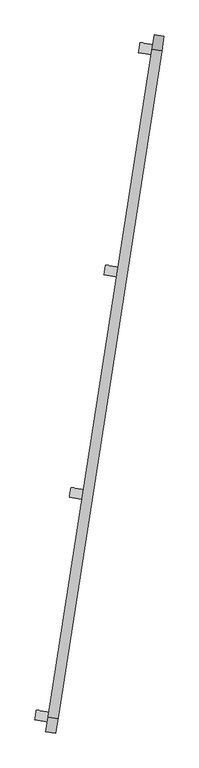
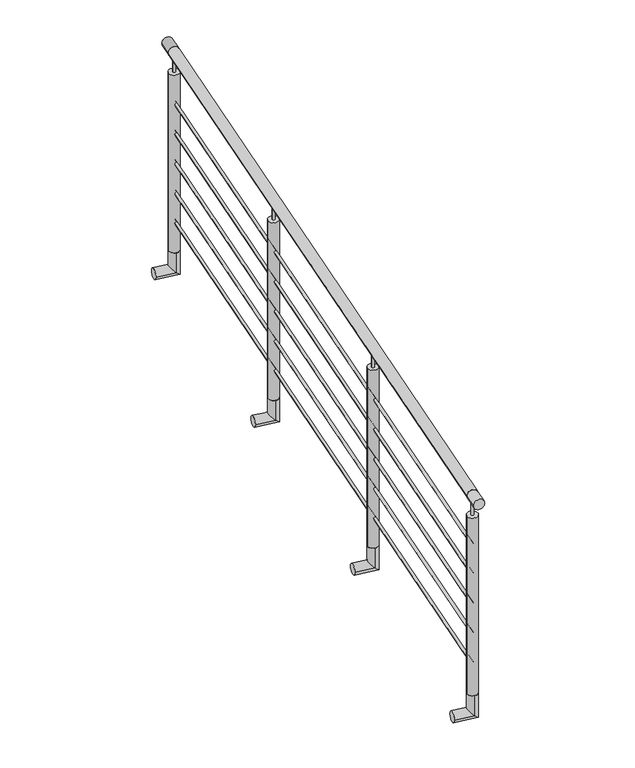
"""IFC4 building model written with IfcOpenShell, lengths in millimetres: railing geometry, Barandal acero inox - sobre ventana."""

from ifc_helpers import new_model, si_unit, point, frame, frame_2d, origin, origin_2d, place, context, project, spatial, circle_curve, ellipse_curve, trimmed, segment, composite_curve, outline, extrude, source, transform, mapped, element, save
from ifc_brep_helpers import plane_surface, cylinder_surface, advanced_brep


def railing_5b8c65d1(model_context):
    return source(origin(), model_context, "Body", "SolidModel", [
        extrude(outline(composite_curve([segment(trimmed(circle_curve(origin_2d(), 25.4), [point((25.4, 0.0))], [point((-25.4, 0.0))], False, "CARTESIAN"), True, "CONTINUOUS"), segment(trimmed(circle_curve(origin_2d(), 25.4), [point((-25.4, 0.0))], [point((25.4, 0.0))], False, "CARTESIAN"), True, "CONTINUOUS")], self_intersect=False)), frame((-23346.3091717, -74517.0784613, 10600.0), z_axis=(0.15400987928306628, 0.9880693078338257, 0.0), x_axis=(0.9880693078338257, -0.15400987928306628, 0.0)), (0.0, 0.0, 1.0), 3429.9999727),
        extrude(outline(composite_curve([segment(trimmed(circle_curve(origin_2d(), 6.35), [point((6.35, 0.0))], [point((-6.35, 0.0))], False, "CARTESIAN"), True, "CONTINUOUS"), segment(trimmed(circle_curve(origin_2d(), 6.35), [point((-6.35, 0.0))], [point((6.35, 0.0))], False, "CARTESIAN"), True, "CONTINUOUS")], self_intersect=False)), frame((-23346.3091717, -74517.0784613, 10350.0), z_axis=(0.15400987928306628, 0.9880693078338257, 0.0), x_axis=(0.9880693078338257, -0.15400987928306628, 0.0)), (0.0, 0.0, 1.0), 3429.9999727),
        extrude(outline(composite_curve([segment(trimmed(circle_curve(origin_2d(), 6.35), [point((6.35, 0.0))], [point((-6.35, 0.0))], False, "CARTESIAN"), True, "CONTINUOUS"), segment(trimmed(circle_curve(origin_2d(), 6.35), [point((-6.35, 0.0))], [point((6.35, 0.0))], False, "CARTESIAN"), True, "CONTINUOUS")], self_intersect=False)), frame((-23346.3091717, -74517.0784613, 10200.0), z_axis=(0.15400987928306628, 0.9880693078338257, 0.0), x_axis=(0.9880693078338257, -0.15400987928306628, 0.0)), (0.0, 0.0, 1.0), 3429.9999727),
        extrude(outline(composite_curve([segment(trimmed(circle_curve(origin_2d(), 6.35), [point((6.35, 0.0))], [point((-6.35, 0.0))], False, "CARTESIAN"), True, "CONTINUOUS"), segment(trimmed(circle_curve(origin_2d(), 6.35), [point((-6.35, 0.0))], [point((6.35, 0.0))], False, "CARTESIAN"), True, "CONTINUOUS")], self_intersect=False)), frame((-23346.3091717, -74517.0784613, 10050.0), z_axis=(0.15400987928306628, 0.9880693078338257, 0.0), x_axis=(0.9880693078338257, -0.15400987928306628, 0.0)), (0.0, 0.0, 1.0), 3429.9999727),
        extrude(outline(composite_curve([segment(trimmed(circle_curve(origin_2d(), 6.35), [point((6.35, 0.0))], [point((-6.35, 0.0))], False, "CARTESIAN"), True, "CONTINUOUS"), segment(trimmed(circle_curve(origin_2d(), 6.35), [point((-6.35, 0.0))], [point((6.35, 0.0))], False, "CARTESIAN"), True, "CONTINUOUS")], self_intersect=False)), frame((-23346.3091717, -74517.0784613, 9900.0), z_axis=(0.15400987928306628, 0.9880693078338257, 0.0), x_axis=(0.9880693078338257, -0.15400987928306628, 0.0)), (0.0, 0.0, 1.0), 3429.9999727),
        extrude(outline(composite_curve([segment(trimmed(circle_curve(origin_2d(), 6.35), [point((6.35, 0.0))], [point((-6.35, 0.0))], False, "CARTESIAN"), True, "CONTINUOUS"), segment(trimmed(circle_curve(origin_2d(), 6.35), [point((-6.35, 0.0))], [point((6.35, 0.0))], False, "CARTESIAN"), True, "CONTINUOUS")], self_intersect=False)), frame((-23346.3091717, -74517.0784613, 9750.0), z_axis=(0.15400987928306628, 0.9880693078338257, 0.0), x_axis=(0.9880693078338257, -0.15400987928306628, 0.0)), (0.0, 0.0, 1.0), 3429.9999727),
        advanced_brep(
        [(-22998.0517681, -72282.7902891, 9600.0), (-22990.2280663, -72232.5963683, 9600.0), (-22990.2280663, -72232.5963683, 9500.0), (-22998.0517681, -72282.7902891, 9500.0), (-23086.9780058, -72268.9294, 9500.0), (-23079.154304, -72218.7354791, 9500.0)],
        [
            (0, 1, circle_curve(frame((-22994.1399172, -72257.6933287, 9600.0), z_axis=(0.0, 0.0, 1.0), x_axis=(0.15400987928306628, 0.9880693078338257, 0.0)), 25.4)),
            (1, 0, circle_curve(frame((-22994.1399172, -72257.6933287, 9600.0), z_axis=(0.0, 0.0, 1.0), x_axis=(0.15400987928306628, 0.9880693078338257, 0.0)), 25.4)),
            (1, 2),
            (2, 3, ellipse_curve(frame((-22994.1399172, -72257.6933287, 9500.0), z_axis=(0.6986705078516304, -0.1089014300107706, 0.7071067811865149), x_axis=(-0.6986705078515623, 0.10890143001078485, 0.7071067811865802)), 35.9210245, 25.4)),
            (3, 0),
            (3, 2, ellipse_curve(frame((-22994.1399172, -72257.6933287, 9500.0), z_axis=(0.6986705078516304, -0.1089014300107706, 0.7071067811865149), x_axis=(-0.6986705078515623, 0.10890143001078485, 0.7071067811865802)), 35.9210245, 25.4)),
            (4, 5, circle_curve(frame((-23083.0661549, -72243.8324395, 9500.0), z_axis=(-0.9880693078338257, 0.15400987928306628, 0.0), x_axis=(0.15400987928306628, 0.9880693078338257, 0.0)), 25.4)),
            (5, 4, circle_curve(frame((-23083.0661549, -72243.8324395, 9500.0), z_axis=(-0.9880693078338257, 0.15400987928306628, 0.0), x_axis=(0.15400987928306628, 0.9880693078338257, 0.0)), 25.4)),
            (2, 5),
            (4, 3),
        ],
        [
            plane_surface(frame((-22994.1399172, -72257.6933287, 9600.0), z_axis=(0.0, 0.0, 1.0), x_axis=(0.15400987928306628, 0.9880693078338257, 0.0))),
            cylinder_surface(frame((-22994.1399172, -72257.6933287, 9600.0), z_axis=(0.0, 0.0, 1.0), x_axis=(0.15400987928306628, 0.9880693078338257, 0.0)), 25.4),
            plane_surface(frame((-23083.0661549, -72243.8324395, 9500.0), z_axis=(-0.9880693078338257, 0.15400987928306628, 0.0), x_axis=(0.15400987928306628, 0.9880693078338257, 0.0))),
            cylinder_surface(frame((-22994.1399172, -72257.6933287, 9500.0), z_axis=(0.9880693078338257, -0.15400987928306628, 0.0), x_axis=(0.15400987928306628, 0.9880693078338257, 0.0)), 25.4),
        ],
        [
            (0, [[1, 2]]),
            (1, [[3, 4, 5, -2]]),
            (1, [[-5, 6, -3, -1]]),
            (2, [[7, 8]]),
            (3, [[9, -7, 10, -4]]),
            (3, [[-10, -8, -9, -6]]),
        ],
    ),
        extrude(outline(composite_curve([segment(trimmed(circle_curve(frame_2d((-22994.1399172, -72257.6933287)), 6.35), [point((-23000.4141573, -72256.7153659))], [point((-22987.8656771, -72258.6712914))], False, "CARTESIAN"), True, "CONTINUOUS"), segment(trimmed(circle_curve(frame_2d((-22994.1399172, -72257.6933287)), 6.35), [point((-22987.8656771, -72258.6712914))], [point((-23000.4141573, -72256.7153659))], False, "CARTESIAN"), True, "CONTINUOUS")], self_intersect=False)), frame((0.0, 0.0, 10499.6), z_axis=(0.0, 0.0, 1.0), x_axis=(1.0, 0.0, 0.0)), (0.0, 0.0, 1.0), 75.0),
        extrude(outline(composite_curve([segment(trimmed(circle_curve(frame_2d((-22994.1399172, -72257.6933287)), 25.4), [point((-23019.2368776, -72253.7814777))], [point((-22969.0429568, -72261.6051796))], False, "CARTESIAN"), True, "CONTINUOUS"), segment(trimmed(circle_curve(frame_2d((-22994.1399172, -72257.6933287)), 25.4), [point((-22969.0429568, -72261.6051796))], [point((-23019.2368776, -72253.7814777))], False, "CARTESIAN"), True, "CONTINUOUS")], self_intersect=False)), frame((0.0, 0.0, 9600.0), z_axis=(0.0, 0.0, 1.0), x_axis=(1.0, 0.0, 0.0)), (0.0, 0.0, 1.0), 899.6),
        advanced_brep(
        [(-23174.1363954, -73412.4828554, 9600.0), (-23166.3126935, -73362.2889346, 9600.0), (-23166.3126935, -73362.2889346, 9500.0), (-23174.1363954, -73412.4828554, 9500.0), (-23263.0626331, -73398.6219663, 9500.0), (-23255.2389312, -73348.4280454, 9500.0)],
        [
            (0, 1, circle_curve(frame((-23170.2245444, -73387.385895, 9600.0), z_axis=(0.0, 0.0, 1.0), x_axis=(0.15400987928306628, 0.9880693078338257, 0.0)), 25.4)),
            (1, 0, circle_curve(frame((-23170.2245444, -73387.385895, 9600.0), z_axis=(0.0, 0.0, 1.0), x_axis=(0.15400987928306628, 0.9880693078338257, 0.0)), 25.4)),
            (1, 2),
            (2, 3, ellipse_curve(frame((-23170.2245444, -73387.385895, 9500.0), z_axis=(0.6986705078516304, -0.1089014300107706, 0.7071067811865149), x_axis=(-0.6986705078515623, 0.10890143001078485, 0.7071067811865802)), 35.9210245, 25.4)),
            (3, 0),
            (3, 2, ellipse_curve(frame((-23170.2245444, -73387.385895, 9500.0), z_axis=(0.6986705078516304, -0.1089014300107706, 0.7071067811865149), x_axis=(-0.6986705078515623, 0.10890143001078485, 0.7071067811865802)), 35.9210245, 25.4)),
            (4, 5, circle_curve(frame((-23259.1507821, -73373.5250058, 9500.0), z_axis=(-0.9880693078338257, 0.15400987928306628, 0.0), x_axis=(0.15400987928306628, 0.9880693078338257, 0.0)), 25.4)),
            (5, 4, circle_curve(frame((-23259.1507821, -73373.5250058, 9500.0), z_axis=(-0.9880693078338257, 0.15400987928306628, 0.0), x_axis=(0.15400987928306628, 0.9880693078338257, 0.0)), 25.4)),
            (2, 5),
            (4, 3),
        ],
        [
            plane_surface(frame((-23170.2245444, -73387.385895, 9600.0), z_axis=(0.0, 0.0, 1.0), x_axis=(0.15400987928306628, 0.9880693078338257, 0.0))),
            cylinder_surface(frame((-23170.2245444, -73387.385895, 9600.0), z_axis=(0.0, 0.0, 1.0), x_axis=(0.15400987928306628, 0.9880693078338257, 0.0)), 25.4),
            plane_surface(frame((-23259.1507821, -73373.5250058, 9500.0), z_axis=(-0.9880693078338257, 0.15400987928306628, 0.0), x_axis=(0.15400987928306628, 0.9880693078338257, 0.0))),
            cylinder_surface(frame((-23170.2245444, -73387.385895, 9500.0), z_axis=(0.9880693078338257, -0.15400987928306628, 0.0), x_axis=(0.15400987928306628, 0.9880693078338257, 0.0)), 25.4),
        ],
        [
            (0, [[1, 2]]),
            (1, [[3, 4, 5, -2]]),
            (1, [[-5, 6, -3, -1]]),
            (2, [[7, 8]]),
            (3, [[9, -7, 10, -4]]),
            (3, [[-10, -8, -9, -6]]),
        ],
    ),
        extrude(outline(composite_curve([segment(trimmed(circle_curve(frame_2d((-23170.2245444, -73387.385895)), 6.35), [point((-23176.4987845, -73386.4079322))], [point((-23163.9503043, -73388.3638577))], False, "CARTESIAN"), True, "CONTINUOUS"), segment(trimmed(circle_curve(frame_2d((-23170.2245444, -73387.385895)), 6.35), [point((-23163.9503043, -73388.3638577))], [point((-23176.4987845, -73386.4079322))], False, "CARTESIAN"), True, "CONTINUOUS")], self_intersect=False)), frame((0.0, 0.0, 10499.6), z_axis=(0.0, 0.0, 1.0), x_axis=(1.0, 0.0, 0.0)), (0.0, 0.0, 1.0), 75.0),
        extrude(outline(composite_curve([segment(trimmed(circle_curve(frame_2d((-23170.2245444, -73387.385895)), 25.4), [point((-23195.3215049, -73383.474044))], [point((-23145.127584, -73391.2977459))], False, "CARTESIAN"), True, "CONTINUOUS"), segment(trimmed(circle_curve(frame_2d((-23170.2245444, -73387.385895)), 25.4), [point((-23145.127584, -73391.2977459))], [point((-23195.3215049, -73383.474044))], False, "CARTESIAN"), True, "CONTINUOUS")], self_intersect=False)), frame((0.0, 0.0, 9600.0), z_axis=(0.0, 0.0, 1.0), x_axis=(1.0, 0.0, 0.0)), (0.0, 0.0, 1.0), 899.6),
        advanced_brep(
        [(-22821.9671409, -71153.0977228, 9600.0), (-22814.143439, -71102.903802, 9600.0), (-22814.143439, -71102.903802, 9500.0), (-22821.9671409, -71153.0977228, 9500.0), (-22910.8933786, -71139.2368337, 9500.0), (-22903.0696767, -71089.0429128, 9500.0)],
        [
            (0, 1, circle_curve(frame((-22818.05529, -71128.0007624, 9600.0), z_axis=(0.0, 0.0, 1.0), x_axis=(0.15400987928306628, 0.9880693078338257, 0.0)), 25.4)),
            (1, 0, circle_curve(frame((-22818.05529, -71128.0007624, 9600.0), z_axis=(0.0, 0.0, 1.0), x_axis=(0.15400987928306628, 0.9880693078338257, 0.0)), 25.4)),
            (1, 2),
            (2, 3, ellipse_curve(frame((-22818.05529, -71128.0007624, 9500.0), z_axis=(0.6986705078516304, -0.1089014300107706, 0.7071067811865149), x_axis=(-0.6986705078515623, 0.10890143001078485, 0.7071067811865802)), 35.9210245, 25.4)),
            (3, 0),
            (3, 2, ellipse_curve(frame((-22818.05529, -71128.0007624, 9500.0), z_axis=(0.6986705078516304, -0.1089014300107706, 0.7071067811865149), x_axis=(-0.6986705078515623, 0.10890143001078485, 0.7071067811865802)), 35.9210245, 25.4)),
            (4, 5, circle_curve(frame((-22906.9815277, -71114.1398733, 9500.0), z_axis=(-0.9880693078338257, 0.15400987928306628, 0.0), x_axis=(0.15400987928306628, 0.9880693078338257, 0.0)), 25.4)),
            (5, 4, circle_curve(frame((-22906.9815277, -71114.1398733, 9500.0), z_axis=(-0.9880693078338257, 0.15400987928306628, 0.0), x_axis=(0.15400987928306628, 0.9880693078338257, 0.0)), 25.4)),
            (2, 5),
            (4, 3),
        ],
        [
            plane_surface(frame((-22818.05529, -71128.0007624, 9600.0), z_axis=(0.0, 0.0, 1.0), x_axis=(0.15400987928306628, 0.9880693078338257, 0.0))),
            cylinder_surface(frame((-22818.05529, -71128.0007624, 9600.0), z_axis=(0.0, 0.0, 1.0), x_axis=(0.15400987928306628, 0.9880693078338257, 0.0)), 25.4),
            plane_surface(frame((-22906.9815277, -71114.1398733, 9500.0), z_axis=(-0.9880693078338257, 0.15400987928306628, 0.0), x_axis=(0.15400987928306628, 0.9880693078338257, 0.0))),
            cylinder_surface(frame((-22818.05529, -71128.0007624, 9500.0), z_axis=(0.9880693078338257, -0.15400987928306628, 0.0), x_axis=(0.15400987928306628, 0.9880693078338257, 0.0)), 25.4),
        ],
        [
            (0, [[1, 2]]),
            (1, [[3, 4, 5, -2]]),
            (1, [[-5, 6, -3, -1]]),
            (2, [[7, 8]]),
            (3, [[9, -7, 10, -4]]),
            (3, [[-10, -8, -9, -6]]),
        ],
    ),
        extrude(outline(composite_curve([segment(trimmed(circle_curve(frame_2d((0.0, 25.4000001)), 25.4), [point((0.0, 50.8000001))], [point((0.0, 0.0))], False, "CARTESIAN"), True, "CONTINUOUS"), segment(trimmed(circle_curve(frame_2d((0.0, 25.4000001)), 25.4), [point((0.0, 0.0))], [point((0.0, 50.8000001))], False, "CARTESIAN"), True, "CONTINUOUS")], self_intersect=False)), frame((-22792.9583295, -71131.9126133, 10600.0), z_axis=(0.15400987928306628, 0.9880693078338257, 0.0), x_axis=(0.0, 0.0, -1.0)), (0.0, 0.0, 1.0), 75.0),
        extrude(outline(composite_curve([segment(trimmed(circle_curve(frame_2d((-22818.05529, -71128.0007624)), 6.35), [point((-22824.3295301, -71127.0227997))], [point((-22811.7810499, -71128.9787251))], False, "CARTESIAN"), True, "CONTINUOUS"), segment(trimmed(circle_curve(frame_2d((-22818.05529, -71128.0007624)), 6.35), [point((-22811.7810499, -71128.9787251))], [point((-22824.3295301, -71127.0227997))], False, "CARTESIAN"), True, "CONTINUOUS")], self_intersect=False)), frame((0.0, 0.0, 10499.6), z_axis=(0.0, 0.0, 1.0), x_axis=(1.0, 0.0, 0.0)), (0.0, 0.0, 1.0), 75.0),
        extrude(outline(composite_curve([segment(trimmed(circle_curve(frame_2d((-22818.05529, -71128.0007624)), 25.4), [point((-22843.1522504, -71124.0889115))], [point((-22792.9583295, -71131.9126133))], False, "CARTESIAN"), True, "CONTINUOUS"), segment(trimmed(circle_curve(frame_2d((-22818.05529, -71128.0007624)), 25.4), [point((-22792.9583295, -71131.9126133))], [point((-22843.1522504, -71124.0889115))], False, "CARTESIAN"), True, "CONTINUOUS")], self_intersect=False)), frame((0.0, 0.0, 9600.0), z_axis=(0.0, 0.0, 1.0), x_axis=(1.0, 0.0, 0.0)), (0.0, 0.0, 1.0), 899.6),
        advanced_brep(
        [(-23350.2210226, -74542.1754217, 9600.0), (-23342.3973208, -74491.9815008, 9600.0), (-23342.3973208, -74491.9815008, 9500.0), (-23350.2210226, -74542.1754217, 9500.0), (-23439.1472603, -74528.3145325, 9500.0), (-23431.3235585, -74478.1206117, 9500.0)],
        [
            (0, 1, circle_curve(frame((-23346.3091717, -74517.0784613, 9600.0), z_axis=(0.0, 0.0, 1.0), x_axis=(0.15400987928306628, 0.9880693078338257, 0.0)), 25.4)),
            (1, 0, circle_curve(frame((-23346.3091717, -74517.0784613, 9600.0), z_axis=(0.0, 0.0, 1.0), x_axis=(0.15400987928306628, 0.9880693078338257, 0.0)), 25.4)),
            (1, 2),
            (2, 3, ellipse_curve(frame((-23346.3091717, -74517.0784613, 9500.0), z_axis=(0.6986705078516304, -0.1089014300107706, 0.7071067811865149), x_axis=(-0.6986705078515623, 0.10890143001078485, 0.7071067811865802)), 35.9210245, 25.4)),
            (3, 0),
            (3, 2, ellipse_curve(frame((-23346.3091717, -74517.0784613, 9500.0), z_axis=(0.6986705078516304, -0.1089014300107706, 0.7071067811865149), x_axis=(-0.6986705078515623, 0.10890143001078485, 0.7071067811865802)), 35.9210245, 25.4)),
            (4, 5, circle_curve(frame((-23435.2354094, -74503.2175721, 9500.0), z_axis=(-0.9880693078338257, 0.15400987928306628, 0.0), x_axis=(0.15400987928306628, 0.9880693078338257, 0.0)), 25.4)),
            (5, 4, circle_curve(frame((-23435.2354094, -74503.2175721, 9500.0), z_axis=(-0.9880693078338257, 0.15400987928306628, 0.0), x_axis=(0.15400987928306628, 0.9880693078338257, 0.0)), 25.4)),
            (2, 5),
            (4, 3),
        ],
        [
            plane_surface(frame((-23346.3091717, -74517.0784613, 9600.0), z_axis=(0.0, 0.0, 1.0), x_axis=(0.15400987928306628, 0.9880693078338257, 0.0))),
            cylinder_surface(frame((-23346.3091717, -74517.0784613, 9600.0), z_axis=(0.0, 0.0, 1.0), x_axis=(0.15400987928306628, 0.9880693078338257, 0.0)), 25.4),
            plane_surface(frame((-23435.2354094, -74503.2175721, 9500.0), z_axis=(-0.9880693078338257, 0.15400987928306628, 0.0), x_axis=(0.15400987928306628, 0.9880693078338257, 0.0))),
            cylinder_surface(frame((-23346.3091717, -74517.0784613, 9500.0), z_axis=(0.9880693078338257, -0.15400987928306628, 0.0), x_axis=(0.15400987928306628, 0.9880693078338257, 0.0)), 25.4),
        ],
        [
            (0, [[1, 2]]),
            (1, [[3, 4, 5, -2]]),
            (1, [[-5, 6, -3, -1]]),
            (2, [[7, 8]]),
            (3, [[9, -7, 10, -4]]),
            (3, [[-10, -8, -9, -6]]),
        ],
    ),
        extrude(outline(composite_curve([segment(trimmed(circle_curve(frame_2d((0.0, 25.4)), 25.4), [point((0.0, 50.8000001))], [point((0.0, 0.0))], False, "CARTESIAN"), True, "CONTINUOUS"), segment(trimmed(circle_curve(frame_2d((0.0, 25.4)), 25.4), [point((0.0, 0.0))], [point((0.0, 50.8000001))], False, "CARTESIAN"), True, "CONTINUOUS")], self_intersect=False)), frame((-23332.7629522, -74595.0955103, 10600.0), z_axis=(0.15400987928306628, 0.9880693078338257, 0.0), x_axis=(0.0, 0.0, -1.0)), (0.0, 0.0, 1.0), 75.0),
        extrude(outline(composite_curve([segment(trimmed(circle_curve(frame_2d((-23346.3091717, -74517.0784613)), 6.35), [point((-23352.5834118, -74516.1004985))], [point((-23340.0349316, -74518.056424))], False, "CARTESIAN"), True, "CONTINUOUS"), segment(trimmed(circle_curve(frame_2d((-23346.3091717, -74517.0784613)), 6.35), [point((-23340.0349316, -74518.056424))], [point((-23352.5834118, -74516.1004985))], False, "CARTESIAN"), True, "CONTINUOUS")], self_intersect=False)), frame((0.0, 0.0, 10499.6), z_axis=(0.0, 0.0, 1.0), x_axis=(1.0, 0.0, 0.0)), (0.0, 0.0, 1.0), 75.0),
        extrude(outline(composite_curve([segment(trimmed(circle_curve(frame_2d((-23346.3091717, -74517.0784613)), 25.4), [point((-23371.4061321, -74513.1666103))], [point((-23321.2122113, -74520.9903122))], False, "CARTESIAN"), True, "CONTINUOUS"), segment(trimmed(circle_curve(frame_2d((-23346.3091717, -74517.0784613)), 25.4), [point((-23321.2122113, -74520.9903122))], [point((-23371.4061321, -74513.1666103))], False, "CARTESIAN"), True, "CONTINUOUS")], self_intersect=False)), frame((0.0, 0.0, 9600.0), z_axis=(0.0, 0.0, 1.0), x_axis=(1.0, 0.0, 0.0)), (0.0, 0.0, 1.0), 899.6),
    ])


if __name__ == "__main__":
    model = new_model("IFC4")
    model_context = context("Model", 3, world=origin())
    ifc_project = project(units=[si_unit("LENGTHUNIT", "METRE", prefix="MILLI")], contexts=[model_context])
    site = spatial("IfcSite", under=ifc_project)
    building = spatial("IfcBuilding", under=site)
    placement = place(None, origin())
    railing_shape = railing_5b8c65d1(model_context)
    element("IfcRailing", 1, ObjectType="Barandal acero inox - sobre ventana", at=placement, inside=building, context=model_context, shape_type="MappedRepresentation", body=[
        mapped(railing_shape, transform((0.0, 0.0, 0.0), x_axis=(1.0, 0.0, 0.0), y_axis=(0.0, 1.0, 0.0), z_axis=(0.0, 0.0, 1.0))),
    ])
    save(model, "model.ifc")
